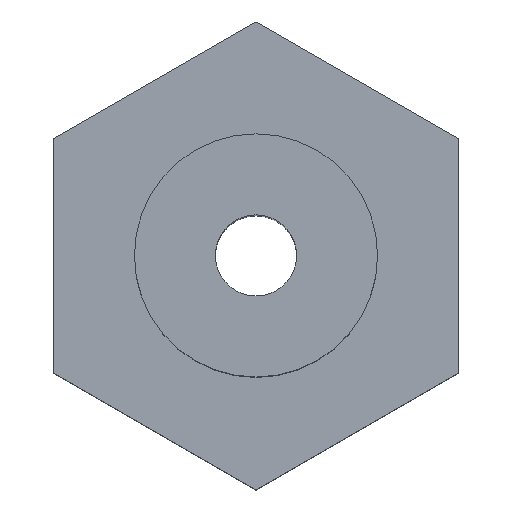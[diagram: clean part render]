
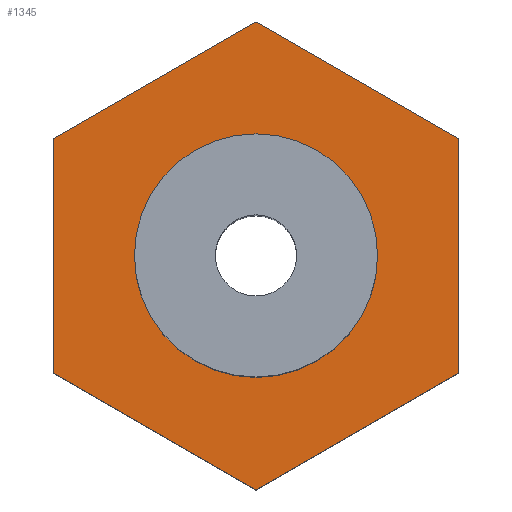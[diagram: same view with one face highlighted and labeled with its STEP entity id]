
A CAD part, top view. The second image highlights one B-rep face of the part: STEP entity #1345.
In plain terms, the highlighted planar face has unit normal (0, 0, 1).
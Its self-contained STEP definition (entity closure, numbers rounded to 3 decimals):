
#19 = CARTESIAN_POINT ( 'NONE',  ( 2.497, -1.445, 2. ) ) ;
#24 = CIRCLE ( 'NONE', #877, 2.885 ) ;
#86 = CARTESIAN_POINT ( 'NONE',  ( -2.5, -1.44, 2. ) ) ;
#118 = CARTESIAN_POINT ( 'NONE',  ( 0., 0., 2. ) ) ;
#123 = DIRECTION ( 'NONE',  ( 0., 0., -1. ) ) ;
#136 = ORIENTED_EDGE ( 'NONE', *, *, #2488, .T. ) ;
#145 = DIRECTION ( 'NONE',  ( -1., 0., 0. ) ) ;
#172 = EDGE_CURVE ( 'NONE', #2258, #2317, #2454, .T. ) ;
#289 = LINE ( 'NONE', #574, #794 ) ;
#358 = ORIENTED_EDGE ( 'NONE', *, *, #1520, .F. ) ;
#370 = ORIENTED_EDGE ( 'NONE', *, *, #2474, .T. ) ;
#387 = EDGE_LOOP ( 'NONE', ( #883, #2438 ) ) ;
#395 = CIRCLE ( 'NONE', #1014, 2.885 ) ;
#432 = DIRECTION ( 'NONE',  ( -1., 0., 0. ) ) ;
#445 = EDGE_CURVE ( 'NONE', #2317, #2258, #2245, .T. ) ;
#453 = CARTESIAN_POINT ( 'NONE',  ( -2.5, 1.44, 2. ) ) ;
#528 = LINE ( 'NONE', #1427, #2632 ) ;
#536 = ORIENTED_EDGE ( 'NONE', *, *, #1339, .F. ) ;
#551 = ORIENTED_EDGE ( 'NONE', *, *, #2519, .T. ) ;
#574 = CARTESIAN_POINT ( 'NONE',  ( 0.125, -2.815, 2. ) ) ;
#609 = CIRCLE ( 'NONE', #1406, 2.885 ) ;
#628 = ORIENTED_EDGE ( 'NONE', *, *, #2546, .T. ) ;
#640 = DIRECTION ( 'NONE',  ( -1., 0., 0. ) ) ;
#684 = AXIS2_PLACEMENT_3D ( 'NONE', #1979, #1994, #2003 ) ;
#788 = CARTESIAN_POINT ( 'NONE',  ( 2.497, 1.445, 2. ) ) ;
#794 = VECTOR ( 'NONE', #1618, 1000. ) ;
#798 = VERTEX_POINT ( 'NONE', #2051 ) ;
#801 = CIRCLE ( 'NONE', #1289, 2.885 ) ;
#826 = CARTESIAN_POINT ( 'NONE',  ( 0., 0., 2. ) ) ;
#833 = DIRECTION ( 'NONE',  ( 0., 0., -1. ) ) ;
#842 = VERTEX_POINT ( 'NONE', #2452 ) ;
#846 = DIRECTION ( 'NONE',  ( -1., 0., 0. ) ) ;
#850 = CARTESIAN_POINT ( 'NONE',  ( 0., 0., 2. ) ) ;
#877 = AXIS2_PLACEMENT_3D ( 'NONE', #945, #957, #640 ) ;
#883 = ORIENTED_EDGE ( 'NONE', *, *, #445, .T. ) ;
#916 = VERTEX_POINT ( 'NONE', #2480 ) ;
#929 = DIRECTION ( 'NONE',  ( -0.866, -0.5, 0. ) ) ;
#945 = CARTESIAN_POINT ( 'NONE',  ( 0., 0., 2. ) ) ;
#951 = CARTESIAN_POINT ( 'NONE',  ( -2.375, -1.516, 2. ) ) ;
#956 = ORIENTED_EDGE ( 'NONE', *, *, #1243, .F. ) ;
#957 = DIRECTION ( 'NONE',  ( 0., 0., -1. ) ) ;
#1014 = AXIS2_PLACEMENT_3D ( 'NONE', #118, #123, #145 ) ;
#1039 = CIRCLE ( 'NONE', #684, 2.885 ) ;
#1073 = VERTEX_POINT ( 'NONE', #1232 ) ;
#1113 = AXIS2_PLACEMENT_3D ( 'NONE', #850, #1670, #1381 ) ;
#1152 = CARTESIAN_POINT ( 'NONE',  ( -2.5, 0., 2. ) ) ;
#1230 = ORIENTED_EDGE ( 'NONE', *, *, #2529, .T. ) ;
#1232 = CARTESIAN_POINT ( 'NONE',  ( 0.003, 2.885, 2. ) ) ;
#1243 = EDGE_CURVE ( 'NONE', #2348, #1073, #609, .T. ) ;
#1255 = AXIS2_PLACEMENT_3D ( 'NONE', #1858, #1876, #1371 ) ;
#1289 = AXIS2_PLACEMENT_3D ( 'NONE', #1785, #1792, #1363 ) ;
#1339 = EDGE_CURVE ( 'NONE', #1738, #798, #801, .T. ) ;
#1345 = ADVANCED_FACE ( 'NONE', ( #1362, #1917 ), #1698, .T. ) ;
#1362 = FACE_OUTER_BOUND ( 'NONE', #2116, .T. ) ;
#1363 = DIRECTION ( 'NONE',  ( -1., 0., 0. ) ) ;
#1370 = CARTESIAN_POINT ( 'NONE',  ( -1.5, 0., 2. ) ) ;
#1371 = DIRECTION ( 'NONE',  ( 1., 0., 0. ) ) ;
#1381 = DIRECTION ( 'NONE',  ( -1., 0., 0. ) ) ;
#1387 = ORIENTED_EDGE ( 'NONE', *, *, #1904, .F. ) ;
#1406 = AXIS2_PLACEMENT_3D ( 'NONE', #826, #833, #846 ) ;
#1427 = CARTESIAN_POINT ( 'NONE',  ( 2.5, 0., 2. ) ) ;
#1520 = EDGE_CURVE ( 'NONE', #2357, #1713, #1668, .T. ) ;
#1551 = DIRECTION ( 'NONE',  ( 0., 0., -1. ) ) ;
#1568 = CARTESIAN_POINT ( 'NONE',  ( 2.5, -1.44, 2. ) ) ;
#1588 = VECTOR ( 'NONE', #929, 1000. ) ;
#1618 = DIRECTION ( 'NONE',  ( 0.866, 0.5, 0. ) ) ;
#1644 = CARTESIAN_POINT ( 'NONE',  ( 0.125, 2.815, 2. ) ) ;
#1668 = CIRCLE ( 'NONE', #1113, 2.885 ) ;
#1670 = DIRECTION ( 'NONE',  ( 0., 0., -1. ) ) ;
#1698 = PLANE ( 'NONE',  #1255 ) ;
#1708 = EDGE_CURVE ( 'NONE', #842, #2222, #395, .T. ) ;
#1713 = VERTEX_POINT ( 'NONE', #86 ) ;
#1738 = VERTEX_POINT ( 'NONE', #453 ) ;
#1781 = CARTESIAN_POINT ( 'NONE',  ( -2.375, 1.516, 2. ) ) ;
#1785 = CARTESIAN_POINT ( 'NONE',  ( 0., 0., 2. ) ) ;
#1792 = DIRECTION ( 'NONE',  ( 0., 0., -1. ) ) ;
#1818 = VERTEX_POINT ( 'NONE', #788 ) ;
#1850 = ORIENTED_EDGE ( 'NONE', *, *, #2465, .T. ) ;
#1858 = CARTESIAN_POINT ( 'NONE',  ( -1.5, 0., 2. ) ) ;
#1867 = DIRECTION ( 'NONE',  ( -1., 0., 0. ) ) ;
#1876 = DIRECTION ( 'NONE',  ( 0., 0., 1. ) ) ;
#1904 = EDGE_CURVE ( 'NONE', #2094, #2304, #24, .T. ) ;
#1917 = FACE_BOUND ( 'NONE', #387, .T. ) ;
#1936 = ORIENTED_EDGE ( 'NONE', *, *, #2122, .F. ) ;
#1937 = ORIENTED_EDGE ( 'NONE', *, *, #1708, .F. ) ;
#1948 = AXIS2_PLACEMENT_3D ( 'NONE', #2135, #2155, #432 ) ;
#1963 = CARTESIAN_POINT ( 'NONE',  ( 0., 0., 2. ) ) ;
#1979 = CARTESIAN_POINT ( 'NONE',  ( 0., 0., 2. ) ) ;
#1994 = DIRECTION ( 'NONE',  ( 0., 0., -1. ) ) ;
#2003 = DIRECTION ( 'NONE',  ( -1., 0., 0. ) ) ;
#2051 = CARTESIAN_POINT ( 'NONE',  ( -2.497, 1.445, 2. ) ) ;
#2083 = LINE ( 'NONE', #951, #2525 ) ;
#2094 = VERTEX_POINT ( 'NONE', #1568 ) ;
#2116 = EDGE_LOOP ( 'NONE', ( #956, #1850, #536, #370, #358, #136, #1937, #551, #1387, #1230, #1936, #628 ) ) ;
#2122 = EDGE_CURVE ( 'NONE', #1818, #916, #1039, .T. ) ;
#2125 = VECTOR ( 'NONE', #2457, 1000. ) ;
#2133 = LINE ( 'NONE', #1152, #2582 ) ;
#2135 = CARTESIAN_POINT ( 'NONE',  ( 0., 0., 2. ) ) ;
#2155 = DIRECTION ( 'NONE',  ( 0., 0., -1. ) ) ;
#2196 = LINE ( 'NONE', #1781, #1588 ) ;
#2222 = VERTEX_POINT ( 'NONE', #2493 ) ;
#2225 = AXIS2_PLACEMENT_3D ( 'NONE', #1963, #1551, #1867 ) ;
#2245 = CIRCLE ( 'NONE', #1948, 1.5 ) ;
#2258 = VERTEX_POINT ( 'NONE', #2592 ) ;
#2304 = VERTEX_POINT ( 'NONE', #19 ) ;
#2317 = VERTEX_POINT ( 'NONE', #1370 ) ;
#2319 = CARTESIAN_POINT ( 'NONE',  ( -0.003, 2.885, 2. ) ) ;
#2348 = VERTEX_POINT ( 'NONE', #2319 ) ;
#2357 = VERTEX_POINT ( 'NONE', #2460 ) ;
#2390 = DIRECTION ( 'NONE',  ( 0.866, -0.5, 0. ) ) ;
#2438 = ORIENTED_EDGE ( 'NONE', *, *, #172, .T. ) ;
#2452 = CARTESIAN_POINT ( 'NONE',  ( 0.003, -2.885, 2. ) ) ;
#2454 = CIRCLE ( 'NONE', #2225, 1.5 ) ;
#2457 = DIRECTION ( 'NONE',  ( -0.866, 0.5, 0. ) ) ;
#2460 = CARTESIAN_POINT ( 'NONE',  ( -2.497, -1.445, 2. ) ) ;
#2465 = EDGE_CURVE ( 'NONE', #2348, #798, #2196, .T. ) ;
#2474 = EDGE_CURVE ( 'NONE', #1738, #1713, #2133, .T. ) ;
#2480 = CARTESIAN_POINT ( 'NONE',  ( 2.5, 1.44, 2. ) ) ;
#2488 = EDGE_CURVE ( 'NONE', #2357, #2222, #2083, .T. ) ;
#2493 = CARTESIAN_POINT ( 'NONE',  ( -0.003, -2.885, 2. ) ) ;
#2519 = EDGE_CURVE ( 'NONE', #842, #2304, #289, .T. ) ;
#2525 = VECTOR ( 'NONE', #2390, 1000. ) ;
#2529 = EDGE_CURVE ( 'NONE', #2094, #916, #528, .T. ) ;
#2546 = EDGE_CURVE ( 'NONE', #1818, #1073, #2569, .T. ) ;
#2564 = DIRECTION ( 'NONE',  ( 0., -1., 0. ) ) ;
#2569 = LINE ( 'NONE', #1644, #2125 ) ;
#2582 = VECTOR ( 'NONE', #2564, 1000. ) ;
#2592 = CARTESIAN_POINT ( 'NONE',  ( 1.5, 0., 2. ) ) ;
#2620 = DIRECTION ( 'NONE',  ( 0., 1., 0. ) ) ;
#2632 = VECTOR ( 'NONE', #2620, 1000. ) ;
